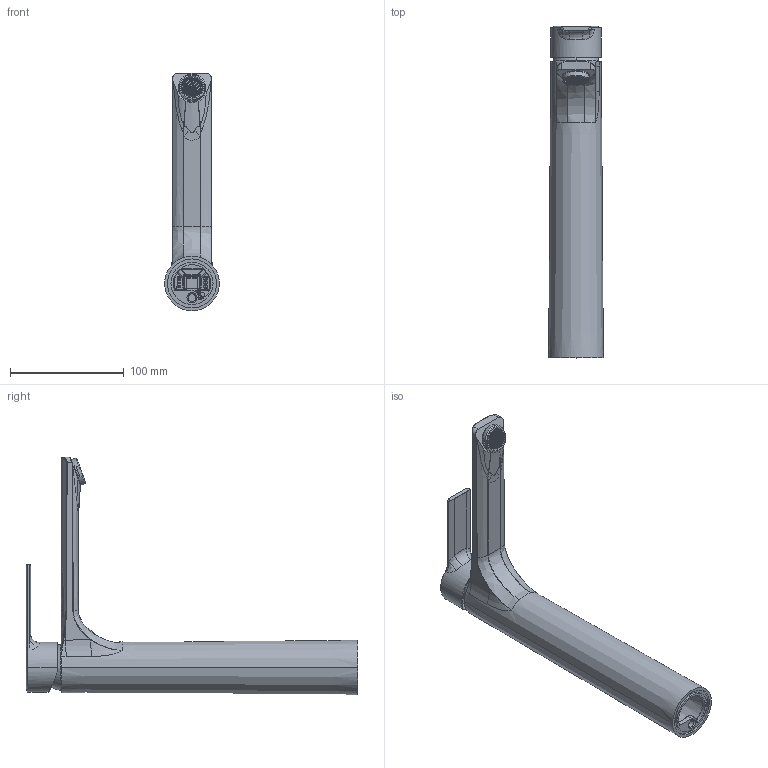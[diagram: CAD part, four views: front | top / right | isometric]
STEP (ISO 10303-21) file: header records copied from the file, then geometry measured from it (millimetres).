
FILE_DESCRIPTION((''),'2;1');
FILE_NAME('F3131_HCR_FILE_3D','2017-03-27T',('ivanv'),(''),'CREO PARAMETRIC BY PTC INC, 2016260','CREO PARAMETRIC BY PTC INC, 2016260','');
FILE_SCHEMA(('CONFIG_CONTROL_DESIGN'));
Length unit declared in the file: millimetre
Products named in the file (1): F3131_HCR_FILE_3D
Bounding box: 48 x 291.2 x 208.5 mm (x, y, z)
Volume: 180485.8 mm3; surface area: 121720.1 mm2
Topology: 2 solids, 2 shells, 4986 faces, 13167 edges, 8662 vertices
Faces by surface type: plane 3242, cylinder 864, cone 473, bspline 231, extrusion 79, torus 78, sphere 19
Entity records: 194332 total; most frequent: CARTESIAN_POINT 83288, ORIENTED_EDGE 26322, DIRECTION 17206, EDGE_CURVE 13161, VERTEX_POINT 8662, B_SPLINE_CURVE_WITH_KNOTS 6393, VECTOR 5998, LINE 5919
